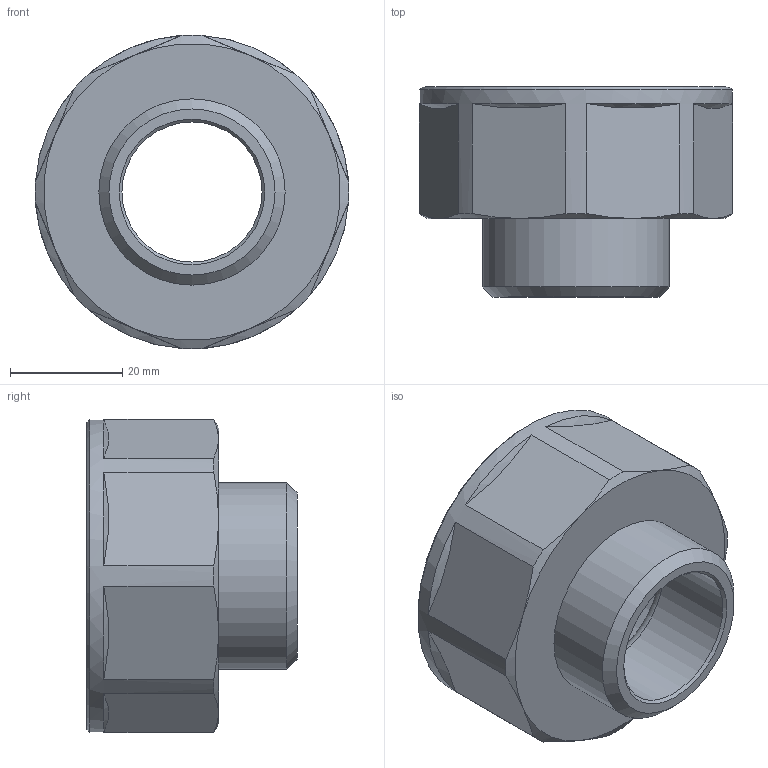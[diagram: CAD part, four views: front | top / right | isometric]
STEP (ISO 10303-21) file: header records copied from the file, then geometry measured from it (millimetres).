
FILE_DESCRIPTION(('STEP AP203'), '1');
FILE_NAME('ﾂﾐ.753158.006 - VTr.592.N.0806 ﾏ褞襄. G1 1-2xG1', '2024-07-08T09:38:53', ('Boss'), (''), 'C3D Converter', 'C3D Toolkit', '');
FILE_SCHEMA(('CONFIG_CONTROL_DESIGN'));
Length unit declared in the file: millimetre
Products named in the file (1): ВР.753158.006
Bounding box: 55.99 x 37.5 x 55.99 mm (x, y, z)
Volume: 26387.5 mm3; surface area: 13169.8 mm2
Topology: 1 solids, 1 shells, 37 faces, 85 edges, 52 vertices
Faces by surface type: cone 20, plane 12, cylinder 4, torus 1
Full cylindrical faces by diameter (mm): 25 x1, 33.249 x1, 44.846 x1, 56 x1
Entity records: 1342 total; most frequent: CARTESIAN_POINT 656, DIRECTION 136, ORIENTED_EDGE 124, EDGE_CURVE 62, AXIS2_PLACEMENT_3D 60, VERTEX_POINT 45, EDGE_LOOP 43, ADVANCED_FACE 30
